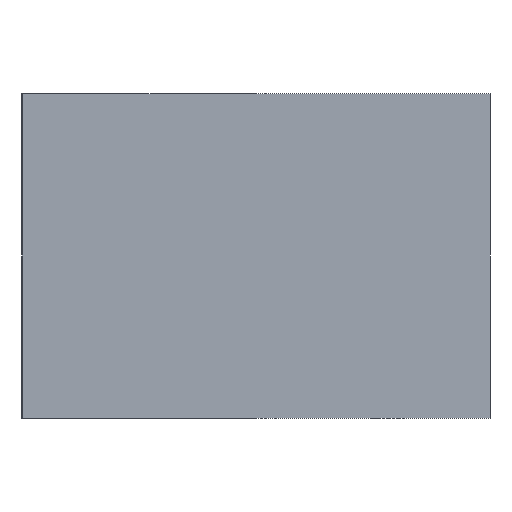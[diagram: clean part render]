
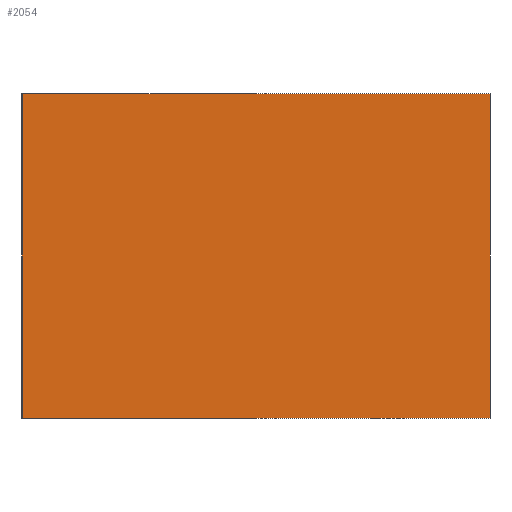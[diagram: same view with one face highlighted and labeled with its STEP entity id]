
A CAD part, left-side view. The second image highlights one B-rep face of the part: STEP entity #2054.
In plain terms, the highlighted planar face has unit normal (-1, 0, 0).
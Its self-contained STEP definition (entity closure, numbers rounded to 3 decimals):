
#25 = LINE ( 'NONE', #2192, #2038 ) ;
#204 = CARTESIAN_POINT ( 'NONE',  ( -98., -35.5, 0. ) ) ;
#234 = CARTESIAN_POINT ( 'NONE',  ( -98., -35.5, 49.3 ) ) ;
#270 = ORIENTED_EDGE ( 'NONE', *, *, #1764, .T. ) ;
#337 = CARTESIAN_POINT ( 'NONE',  ( -98., -35.5, 49.3 ) ) ;
#354 = AXIS2_PLACEMENT_3D ( 'NONE', #234, #1791, #1379 ) ;
#431 = EDGE_CURVE ( 'NONE', #2047, #2445, #25, .T. ) ;
#455 = VECTOR ( 'NONE', #913, 1000. ) ;
#517 = EDGE_CURVE ( 'NONE', #2445, #583, #1263, .T. ) ;
#583 = VERTEX_POINT ( 'NONE', #2233 ) ;
#913 = DIRECTION ( 'NONE',  ( 0., 0., -1. ) ) ;
#946 = VECTOR ( 'NONE', #1534, 1000. ) ;
#993 = ORIENTED_EDGE ( 'NONE', *, *, #1346, .T. ) ;
#1001 = VECTOR ( 'NONE', #1073, 1000. ) ;
#1073 = DIRECTION ( 'NONE',  ( 0., 0., -1. ) ) ;
#1109 = CARTESIAN_POINT ( 'NONE',  ( -98., 35.5, 49.3 ) ) ;
#1217 = DIRECTION ( 'NONE',  ( 0., -1., 0. ) ) ;
#1225 = PLANE ( 'NONE',  #354 ) ;
#1263 = LINE ( 'NONE', #1819, #1001 ) ;
#1320 = EDGE_LOOP ( 'NONE', ( #993, #2025, #2189, #270 ) ) ;
#1346 = EDGE_CURVE ( 'NONE', #1629, #583, #1969, .T. ) ;
#1379 = DIRECTION ( 'NONE',  ( 0., 0., -1. ) ) ;
#1403 = LINE ( 'NONE', #1109, #455 ) ;
#1534 = DIRECTION ( 'NONE',  ( 0., -1., 0. ) ) ;
#1629 = VERTEX_POINT ( 'NONE', #2387 ) ;
#1764 = EDGE_CURVE ( 'NONE', #2047, #1629, #1403, .T. ) ;
#1791 = DIRECTION ( 'NONE',  ( 1., 0., 0. ) ) ;
#1819 = CARTESIAN_POINT ( 'NONE',  ( -98., -35.5, 49.3 ) ) ;
#1906 = FACE_OUTER_BOUND ( 'NONE', #1320, .T. ) ;
#1969 = LINE ( 'NONE', #204, #946 ) ;
#2006 = CARTESIAN_POINT ( 'NONE',  ( -98., 35.5, 49.3 ) ) ;
#2025 = ORIENTED_EDGE ( 'NONE', *, *, #517, .F. ) ;
#2038 = VECTOR ( 'NONE', #1217, 1000. ) ;
#2047 = VERTEX_POINT ( 'NONE', #2006 ) ;
#2054 = ADVANCED_FACE ( 'NONE', ( #1906 ), #1225, .F. ) ;
#2189 = ORIENTED_EDGE ( 'NONE', *, *, #431, .F. ) ;
#2192 = CARTESIAN_POINT ( 'NONE',  ( -98., -35.5, 49.3 ) ) ;
#2233 = CARTESIAN_POINT ( 'NONE',  ( -98., -35.5, 0. ) ) ;
#2387 = CARTESIAN_POINT ( 'NONE',  ( -98., 35.5, 0. ) ) ;
#2445 = VERTEX_POINT ( 'NONE', #337 ) ;
